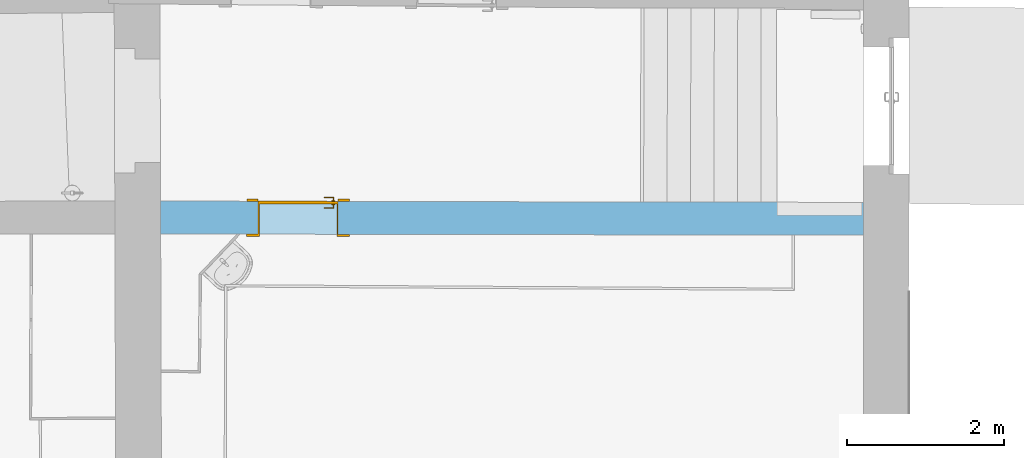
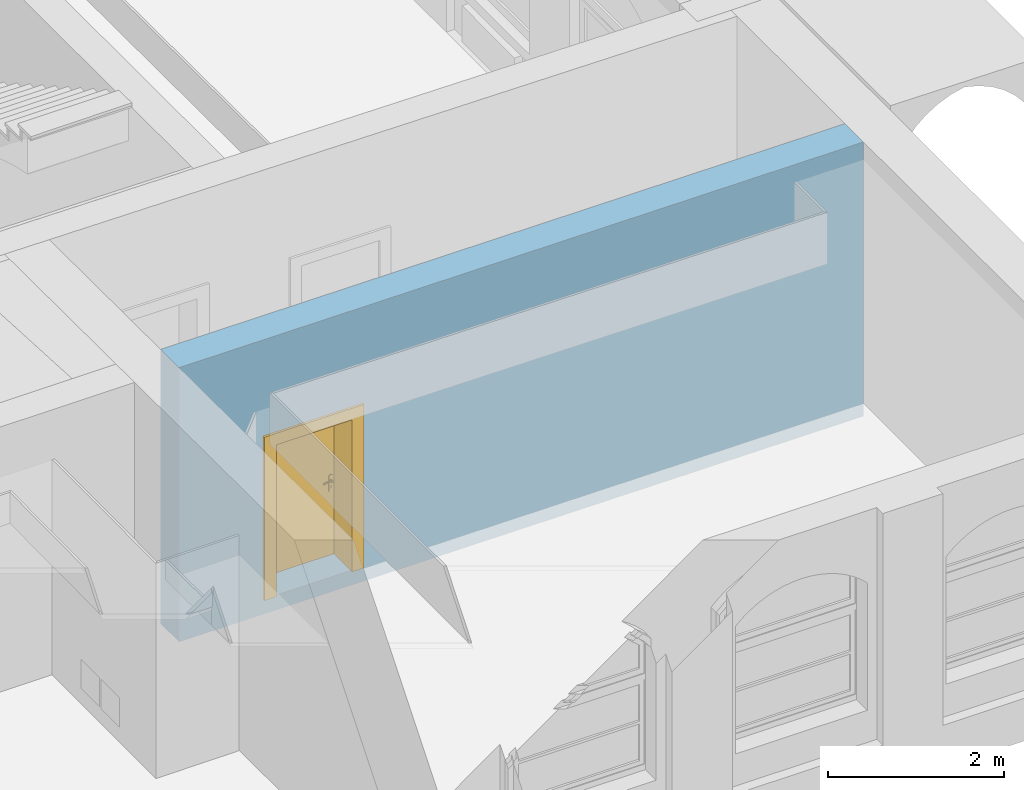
# One storey, part 81 of 158: 1 door, 1 opening, plus 1 element that does not belong to this part.
"""IFC2X3 building model written with IfcOpenShell, lengths in metres."""

from ifc_helpers import new_model, entity, si_unit, converted_unit, derived_unit, money_unit, direction, frame, origin_with_axes, origin_2d_with_axis, place, context, subcontext, project, spatial, polyline, rectangle, outline, extrude, open_shell, faceted_brep, surface_model, material, layer, layer_set, layer_usage, type_object, element, fill, save


model = new_model("IFC2X3")

# Units and contexts
model_context = context("Model", 3, precision=1e-05, world=origin_with_axes(), true_north=direction((0.0, 1.0)))
body_context = subcontext(model_context, "Body", "Model", "MODEL_VIEW")
ifc_project = project(units=[si_unit("LENGTHUNIT", "METRE"), si_unit("AREAUNIT", "SQUARE_METRE"), si_unit("VOLUMEUNIT", "CUBIC_METRE"), converted_unit("PLANEANGLEUNIT", "DEGREE", entity("IfcPlaneAngleMeasure", 0.0174532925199), si_unit("PLANEANGLEUNIT", "RADIAN"), dimensions=[0, 0, 0, 0, 0, 0, 0]), money_unit("EUR"), converted_unit("TIMEUNIT", "Year", entity("IfcTimeMeasure", 31556926.0), si_unit("TIMEUNIT", "SECOND"), dimensions=[0, 0, 1, 0, 0, 0, 0]), si_unit("MASSUNIT", "GRAM", prefix="KILO"), si_unit("THERMODYNAMICTEMPERATUREUNIT", "DEGREE_CELSIUS"), si_unit("LUMINOUSINTENSITYUNIT", "LUMEN"), si_unit("ENERGYUNIT", "JOULE", prefix="MEGA"), derived_unit("THERMALCONDUCTANCEUNIT", [(si_unit("POWERUNIT", "WATT"), 1), (si_unit("LENGTHUNIT", "METRE"), -1), (si_unit("THERMODYNAMICTEMPERATUREUNIT", "KELVIN"), -1)]), derived_unit("SPECIFICHEATCAPACITYUNIT", [(si_unit("ENERGYUNIT", "JOULE"), 1), (si_unit("MASSUNIT", "GRAM", prefix="KILO"), -1), (si_unit("THERMODYNAMICTEMPERATUREUNIT", "KELVIN"), -1)]), derived_unit("MASSDENSITYUNIT", [(si_unit("MASSUNIT", "GRAM", prefix="KILO"), 1), (si_unit("VOLUMEUNIT", "CUBIC_METRE"), -1)])], contexts=[model_context])

# Site, building, storey
site_placement = place(None, origin_with_axes())
site = spatial("IfcSite", under=ifc_project, at=site_placement, Name="Gelände", CompositionType="ELEMENT")
building_placement = place(site_placement, origin_with_axes())
building = spatial("IfcBuilding", under=site, at=building_placement, Name="Gebäude", CompositionType="ELEMENT")
storey_placement = place(building_placement, origin_with_axes())
storey = spatial("IfcBuildingStorey", under=building, at=storey_placement, Name="ERDGESCHOSS", CompositionType="ELEMENT", Elevation=0.0)

# Wall, opening, door
ifc_material = material(Name="05_ALLGEMEIN - TRAGENDE BAUTEILE")
ifc_layer = layer(ifc_material, 0.42, ventilated="UNKNOWN")
ifc_layer_set = layer_set([ifc_layer], Name="05_ALLGEMEIN - TRAGENDE BAUTEILE 0.42")
ifc_layer_usage = layer_usage(ifc_layer_set, "AXIS2", "NEGATIVE", 0.42)
wall_type = type_object("IfcWallType", Name="05_ALLGEMEIN - TRAGENDE BAUTEILE 420", PredefinedType="ELEMENTEDWALL")
wall_placement = place(storey_placement, frame((32.1184601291, 16.8023667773, -0.21), z_axis=(0.0, 0.0, 1.0), x_axis=(-0.999998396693, 0.00179070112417, 0.0)))
wall = element("IfcWallStandardCase", 1, at=wall_placement, inside=storey, type_object=wall_type, material=ifc_layer_usage, Name="Wand-036", ObjectType="ELEMENTEDWALL", context=body_context, shape_type="SweptSolid", body=[
    extrude(outline(polyline([(0.580000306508, 0.0), (9.56213301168, 0.0), (9.56005871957, 0.42), (0.57956851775, 0.42), (0.580000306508, 0.0)])), origin_with_axes(), (0.0, 0.0, 1.0), 3.81),
])
opening_placement = place(wall_placement, frame((7.80414924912, 0.0, 0.205703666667), z_axis=(0.0, 0.0, 1.0), x_axis=(1.0, 0.0, 0.0)))
opening = element("IfcOpeningElement", 2, at=opening_placement, cuts=wall, Name="Tür-022", context=body_context, shape_type="SweptSolid", body=[
    extrude(rectangle(XDim=1.0219033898, YDim=2.127002, at=origin_2d_with_axis()), frame((0.0, -0.42, 1.063501), z_axis=(0.0, -1.0, 0.0), x_axis=(1.0, 0.0, 0.0)), (0.0, 0.0, -1.0), 1.26),
])
door_style = type_object("IfcDoorStyle", Name="Blockrahmentür 1-Fl 25", ConstructionType="NOTDEFINED", OperationType="SINGLE_SWING_LEFT", ParameterTakesPrecedence=False, Sizeable=False)
door_placement = place(opening_placement, frame((0.495951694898, 0.0, 0.0), z_axis=(0.0, 0.0, 1.0), x_axis=(-1.0, 0.0, 0.0)))
door = element("IfcDoor", 3, at=door_placement, inside=storey, type_object=door_style, Name="Tür-022", ObjectType="NOTDEFINED", OverallHeight=2.127, OverallWidth=1.0219, context=body_context, shape_type="SurfaceModel", body=[
    faceted_brep([(-0.015, -0.45, 0.0), (-0.015, -0.45, 2.127002), (-0.015, -0.035, 2.127002), (-0.015, -0.035, 0.0), (0.0, -0.45, 0.0), (0.0, -0.45, 2.112002), (0.380851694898, -0.45, 2.112002), (0.495851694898, -0.45, 2.112002), (0.991903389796, -0.45, 2.112002), (0.991903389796, -0.45, 0.0), (1.0069033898, -0.45, 0.0), (1.0069033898, -0.45, 2.127002), (1.0069033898, -0.035, 2.127002), (1.0069033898, -0.035, 0.0), (0.991903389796, -0.035, 0.0), (0.991903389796, -0.035, 2.112002), (0.495851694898, -0.035, 2.112002), (0.380851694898, -0.035, 2.112002), (0.0, -0.035, 2.112002), (0.0, -0.035, 0.0)], [[[0, 1, 2, 3]], [[0, 4, 5, 6, 7, 8, 9, 10, 11, 1]], [[1, 11, 12, 2]], [[3, 2, 12, 13, 14, 15, 16, 17, 18, 19]], [[4, 0, 3, 19]], [[5, 4, 19, 18]], [[6, 5, 18, 17]], [[7, 6, 17, 16]], [[8, 7, 16, 15]], [[9, 8, 15, 14]], [[10, 9, 14, 13]], [[11, 10, 13, 12]]]),
    surface_model("IfcShellBasedSurfaceModel", [(-0.015, -0.035, 0.0), (-0.015, -0.035, 2.127002), (-0.015, 0.03, 2.127002), (-0.015, 0.03, 0.0), (0.395851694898, -0.035, 2.127002), (0.480851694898, -0.035, 2.127002), (1.0069033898, -0.035, 2.127002), (1.0069033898, -0.035, 2.127002), (1.0069033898, 0.03, 2.127002), (0.480851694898, 0.03, 2.127002), (0.395851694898, 0.03, 2.127002), (-0.015, 0.03, 2.127002), (-0.015, -0.035, 2.127002), (1.0069033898, 0.03, 2.127002), (1.0069033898, -0.035, 0.0), (1.0069033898, 0.03, 0.0)], [open_shell([[[0, 1, 2, 3]], [[4, 5, 6, 1]], [[1, 7, 8, 2]], [[8, 9, 10, 11]], [[12, 0, 3, 11]], [[4, 12, 11, 10]], [[5, 4, 10, 9]], [[6, 5, 9, 13]], [[14, 6, 13, 15]], [[7, 14, 15, 8]]])]),
    faceted_brep([(-0.16, -0.45, 0.0), (-0.16, -0.45, 2.272002), (-0.16, -0.42, 2.272002), (-0.16, -0.42, 0.0), (-0.015, -0.45, 0.0), (-0.015, -0.45, 2.127002), (1.0069033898, -0.45, 2.127002), (1.0069033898, -0.45, 0.0), (1.1519033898, -0.45, 0.0), (1.1519033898, -0.45, 2.272002), (1.1519033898, -0.42, 2.272002), (1.1519033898, -0.42, 0.0), (1.0069033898, -0.42, 0.0), (1.0069033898, -0.42, 2.127002), (-0.015, -0.42, 2.127002), (-0.015, -0.42, 0.0)], [[[0, 1, 2, 3]], [[0, 4, 5, 6, 7, 8, 9, 1]], [[1, 9, 10, 2]], [[3, 2, 10, 11, 12, 13, 14, 15]], [[4, 0, 3, 15]], [[5, 4, 15, 14]], [[6, 5, 14, 13]], [[7, 6, 13, 12]], [[8, 7, 12, 11]], [[9, 8, 11, 10]]]),
    faceted_brep([(-0.16, 0.0, 0.0), (-0.16, 0.0, 2.272002), (-0.16, 0.03, 2.272002), (-0.16, 0.03, 0.0), (-0.015, 0.0, 0.0), (-0.015, 0.0, 2.127002), (1.0069033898, 0.0, 2.127002), (1.0069033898, 0.0, 0.0), (1.1519033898, 0.0, 0.0), (1.1519033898, 0.0, 2.272002), (1.1519033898, 0.03, 2.272002), (1.1519033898, 0.03, 0.0), (1.0069033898, 0.03, 0.0), (1.0069033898, 0.03, 2.127002), (-0.015, 0.03, 2.127002), (-0.015, 0.03, 0.0)], [[[0, 1, 2, 3]], [[0, 4, 5, 6, 7, 8, 9, 1]], [[1, 9, 10, 2]], [[3, 2, 10, 11, 12, 13, 14, 15]], [[4, 0, 3, 15]], [[5, 4, 15, 14]], [[6, 5, 14, 13]], [[7, 6, 13, 12]], [[8, 7, 12, 11]], [[9, 8, 11, 10]]]),
    faceted_brep([(-0.015, 0.002, 0.0), (-0.015, 0.002, 2.127002), (1.0069033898, 0.002, 2.127002), (1.0069033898, 0.002, 0.0), (-0.015, -0.035, 0.0), (-0.015, -0.035, 2.127002), (1.0069033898, -0.035, 2.127002), (1.0069033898, -0.035, 0.0)], [[[0, 1, 2, 3]], [[0, 4, 5, 1]], [[1, 5, 6, 2]], [[2, 6, 7, 3]], [[3, 7, 4, 0]], [[7, 6, 5, 4]]]),
    faceted_brep([(0.951605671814, -0.075, 1.05647213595), (0.951605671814, -0.055, 1.05647213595), (0.946903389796, -0.055, 1.058), (0.946903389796, -0.075, 1.058), (0.954511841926, -0.075, 1.05247213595), (0.954511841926, -0.055, 1.05247213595), (0.952781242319, -0.053, 1.05809016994), (0.946903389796, -0.053, 1.06), (0.942201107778, -0.055, 1.05647213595), (0.942201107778, -0.075, 1.05647213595), (0.939294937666, -0.075, 1.05247213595), (0.939294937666, -0.075, 1.04752786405), (0.942201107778, -0.075, 1.04352786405), (0.946903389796, -0.075, 1.042), (0.951605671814, -0.075, 1.04352786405), (0.954511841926, -0.075, 1.04752786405), (0.954511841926, -0.055, 1.04752786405), (0.956413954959, -0.053, 1.05309016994), (0.952781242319, -0.045, 1.05809016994), (0.946903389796, -0.045, 1.06), (0.941025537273, -0.053, 1.05809016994), (0.939294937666, -0.055, 1.05247213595), (0.939294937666, -0.055, 1.04752786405), (0.942201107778, -0.055, 1.04352786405), (0.946903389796, -0.055, 1.042), (0.951605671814, -0.055, 1.04352786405), (0.956413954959, -0.053, 1.04690983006), (0.956413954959, -0.045, 1.05309016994), (0.956413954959, -0.045, 1.04690983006), (0.952781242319, -0.045, 1.04190983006), (0.946903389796, -0.045, 1.04), (0.941025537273, -0.045, 1.04190983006), (0.937392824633, -0.045, 1.04690983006), (0.937392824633, -0.045, 1.05309016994), (0.941025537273, -0.045, 1.05809016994), (0.937392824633, -0.053, 1.05309016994), (0.937392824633, -0.053, 1.04690983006), (0.941025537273, -0.053, 1.04190983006), (0.946903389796, -0.053, 1.04), (0.952781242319, -0.053, 1.04190983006)], [[[0, 1, 2, 3]], [[4, 5, 1, 0]], [[1, 6, 7, 2]], [[3, 2, 8, 9]], [[3, 9, 10, 11, 12, 13, 14, 15, 4, 0]], [[15, 16, 5, 4]], [[5, 17, 6, 1]], [[6, 18, 19, 7]], [[2, 7, 20, 8]], [[9, 8, 21, 10]], [[10, 21, 22, 11]], [[11, 22, 23, 12]], [[12, 23, 24, 13]], [[13, 24, 25, 14]], [[14, 25, 16, 15]], [[16, 26, 17, 5]], [[17, 27, 18, 6]], [[19, 18, 27, 28, 29, 30, 31, 32, 33, 34]], [[7, 19, 34, 20]], [[8, 20, 35, 21]], [[21, 35, 36, 22]], [[22, 36, 37, 23]], [[23, 37, 38, 24]], [[24, 38, 39, 25]], [[25, 39, 26, 16]], [[26, 28, 27, 17]], [[39, 29, 28, 26]], [[38, 30, 29, 39]], [[37, 31, 30, 38]], [[36, 32, 31, 37]], [[35, 33, 32, 36]], [[20, 34, 33, 35]]]),
    faceted_brep([(0.934715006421, -0.045, 1.11759695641), (0.930103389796, -0.045, 1.11), (0.924403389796, -0.045, 1.11), (0.924403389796, -0.045, 0.89), (0.930103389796, -0.045, 0.89), (0.934715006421, -0.045, 0.882403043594), (0.942459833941, -0.045, 0.878044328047), (0.951346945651, -0.045, 0.878044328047), (0.959091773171, -0.045, 0.882403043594), (0.963703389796, -0.045, 0.89), (0.969403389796, -0.045, 0.89), (0.969403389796, -0.045, 1.11), (0.963703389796, -0.045, 1.11), (0.959091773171, -0.045, 1.11759695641), (0.951346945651, -0.045, 1.12195567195), (0.942459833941, -0.045, 1.12195567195), (0.946903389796, -0.045, 0.967425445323), (0.952278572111, -0.045, 0.965143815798), (0.954371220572, -0.045, 0.959692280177), (0.951903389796, -0.045, 0.9544), (0.951903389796, -0.045, 0.9375), (0.950438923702, -0.045, 0.933964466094), (0.946903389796, -0.045, 0.9325), (0.94336785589, -0.045, 0.933964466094), (0.941903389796, -0.045, 0.9375), (0.941903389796, -0.045, 0.9544), (0.93943555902, -0.045, 0.959692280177), (0.941528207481, -0.045, 0.965143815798), (0.934715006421, -0.035, 1.11759695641), (0.930103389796, -0.035, 1.11), (0.924403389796, -0.035, 1.11), (0.924403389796, -0.035, 0.89), (0.930103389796, -0.035, 0.89), (0.934715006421, -0.035, 0.882403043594), (0.942459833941, -0.035, 0.878044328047), (0.951346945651, -0.035, 0.878044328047), (0.959091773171, -0.035, 0.882403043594), (0.963703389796, -0.035, 0.89), (0.969403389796, -0.035, 0.89), (0.969403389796, -0.035, 1.11), (0.963703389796, -0.035, 1.11), (0.959091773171, -0.035, 1.11759695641), (0.951346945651, -0.035, 1.12195567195), (0.942459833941, -0.035, 1.12195567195), (0.946903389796, -0.035, 0.967425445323), (0.952278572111, -0.035, 0.965143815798), (0.954371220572, -0.035, 0.959692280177), (0.951903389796, -0.035, 0.9544), (0.951903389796, -0.035, 0.9375), (0.950438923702, -0.035, 0.933964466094), (0.946903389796, -0.035, 0.9325), (0.94336785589, -0.035, 0.933964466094), (0.941903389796, -0.035, 0.9375), (0.941903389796, -0.035, 0.9544), (0.93943555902, -0.035, 0.959692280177), (0.941528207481, -0.035, 0.965143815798)], [[[0, 1, 2, 3, 4, 5, 6, 7, 8, 9, 10, 11, 12, 13, 14, 15], [16, 17, 18, 19, 20, 21, 22, 23, 24, 25, 26, 27]], [[0, 28, 29, 1]], [[1, 29, 30, 2]], [[2, 30, 31, 3]], [[3, 31, 32, 4]], [[4, 32, 33, 5]], [[5, 33, 34, 6]], [[6, 34, 35, 7]], [[7, 35, 36, 8]], [[8, 36, 37, 9]], [[9, 37, 38, 10]], [[10, 38, 39, 11]], [[11, 39, 40, 12]], [[12, 40, 41, 13]], [[13, 41, 42, 14]], [[14, 42, 43, 15]], [[15, 43, 28, 0]], [[16, 44, 45, 17]], [[17, 45, 46, 18]], [[18, 46, 47, 19]], [[47, 48, 20, 19]], [[21, 20, 48, 49]], [[22, 21, 49, 50]], [[23, 22, 50, 51]], [[24, 23, 51, 52]], [[25, 24, 52, 53]], [[25, 53, 54, 26]], [[26, 54, 55, 27]], [[27, 55, 44, 16]], [[32, 31, 30, 29, 28, 43, 42, 41, 40, 39, 38, 37, 36, 35, 34, 33], [46, 45, 44, 55, 54, 53, 52, 51, 50, 49, 48, 47]]]),
    faceted_brep([(0.832650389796, -0.075, 1.057158), (0.832648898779, -0.075, 1.05719388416), (0.832648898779, -0.09, 1.05719388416), (0.832650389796, -0.09, 1.057158), (0.859678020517, -0.075, 1.06432652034), (0.887506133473, -0.075, 1.06706086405), (0.915412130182, -0.075, 1.06529002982), (0.942671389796, -0.075, 1.05906), (0.949073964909, -0.075, 1.05976125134), (0.954576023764, -0.075, 1.05641280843), (0.956894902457, -0.075, 1.05040385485), (0.955068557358, -0.075, 1.04422735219), (0.949854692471, -0.075, 1.04044577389), (0.94341640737, -0.075, 1.04062800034), (0.93842478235, -0.075, 1.04469843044), (0.938445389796, -0.075, 1.044666), (0.91315667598, -0.075, 1.05019878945), (0.887314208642, -0.075, 1.05171460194), (0.861552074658, -0.075, 1.04917624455), (0.836502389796, -0.075, 1.042646), (0.830959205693, -0.075, 1.04356849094), (0.827597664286, -0.075, 1.04807159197), (0.828289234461, -0.075, 1.05364829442), (0.828289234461, -0.09, 1.05364829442), (0.827597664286, -0.09, 1.04807159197), (0.830959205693, -0.09, 1.04356849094), (0.836502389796, -0.09, 1.042646), (0.861552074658, -0.09, 1.04917624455), (0.887314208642, -0.09, 1.05171460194), (0.91315667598, -0.09, 1.05019878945), (0.938445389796, -0.09, 1.044666), (0.93842478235, -0.09, 1.04469843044), (0.94341640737, -0.09, 1.04062800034), (0.949854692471, -0.09, 1.04044577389), (0.955068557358, -0.09, 1.04422735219), (0.956894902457, -0.09, 1.05040385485), (0.954576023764, -0.09, 1.05641280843), (0.949073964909, -0.09, 1.05976125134), (0.942671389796, -0.09, 1.05906), (0.915412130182, -0.09, 1.06529002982), (0.887506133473, -0.09, 1.06706086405), (0.859678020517, -0.09, 1.06432652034)], [[[0, 1, 2, 3]], [[0, 4, 5, 6, 7, 8, 9, 10, 11, 12, 13, 14, 15, 16, 17, 18, 19, 20, 21, 22, 1]], [[1, 22, 23, 2]], [[3, 2, 23, 24, 25, 26, 27, 28, 29, 30, 31, 32, 33, 34, 35, 36, 37, 38, 39, 40, 41]], [[4, 0, 3, 41]], [[5, 4, 41, 40]], [[6, 5, 40, 39]], [[7, 6, 39, 38]], [[8, 7, 38, 37]], [[9, 8, 37, 36]], [[10, 9, 36, 35]], [[11, 10, 35, 34]], [[12, 11, 34, 33]], [[13, 12, 33, 32]], [[14, 13, 32, 31]], [[15, 14, 31, 30]], [[16, 15, 30, 29]], [[17, 16, 29, 28]], [[18, 17, 28, 27]], [[19, 18, 27, 26]], [[20, 19, 26, 25]], [[21, 20, 25, 24]], [[22, 21, 24, 23]]]),
    faceted_brep([(0.951605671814, 0.042, 1.05647213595), (0.946903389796, 0.042, 1.058), (0.946903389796, 0.022, 1.058), (0.951605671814, 0.022, 1.05647213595), (0.954511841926, 0.042, 1.05247213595), (0.954511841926, 0.042, 1.04752786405), (0.951605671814, 0.042, 1.04352786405), (0.946903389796, 0.042, 1.042), (0.942201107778, 0.042, 1.04352786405), (0.939294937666, 0.042, 1.04752786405), (0.939294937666, 0.042, 1.05247213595), (0.942201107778, 0.042, 1.05647213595), (0.942201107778, 0.022, 1.05647213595), (0.946903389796, 0.02, 1.06), (0.952781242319, 0.02, 1.05809016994), (0.954511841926, 0.022, 1.05247213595), (0.954511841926, 0.022, 1.04752786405), (0.951605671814, 0.022, 1.04352786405), (0.946903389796, 0.022, 1.042), (0.942201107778, 0.022, 1.04352786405), (0.939294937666, 0.022, 1.04752786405), (0.939294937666, 0.022, 1.05247213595), (0.941025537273, 0.02, 1.05809016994), (0.946903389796, 0.012, 1.06), (0.952781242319, 0.012, 1.05809016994), (0.956413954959, 0.02, 1.05309016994), (0.956413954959, 0.02, 1.04690983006), (0.952781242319, 0.02, 1.04190983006), (0.946903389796, 0.02, 1.04), (0.941025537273, 0.02, 1.04190983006), (0.937392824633, 0.02, 1.04690983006), (0.937392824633, 0.02, 1.05309016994), (0.941025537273, 0.012, 1.05809016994), (0.937392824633, 0.012, 1.05309016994), (0.937392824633, 0.012, 1.04690983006), (0.941025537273, 0.012, 1.04190983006), (0.946903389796, 0.012, 1.04), (0.952781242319, 0.012, 1.04190983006), (0.956413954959, 0.012, 1.04690983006), (0.956413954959, 0.012, 1.05309016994)], [[[0, 1, 2, 3]], [[1, 0, 4, 5, 6, 7, 8, 9, 10, 11]], [[1, 11, 12, 2]], [[3, 2, 13, 14]], [[4, 0, 3, 15]], [[5, 4, 15, 16]], [[6, 5, 16, 17]], [[7, 6, 17, 18]], [[8, 7, 18, 19]], [[9, 8, 19, 20]], [[10, 9, 20, 21]], [[11, 10, 21, 12]], [[2, 12, 22, 13]], [[14, 13, 23, 24]], [[15, 3, 14, 25]], [[16, 15, 25, 26]], [[17, 16, 26, 27]], [[18, 17, 27, 28]], [[19, 18, 28, 29]], [[20, 19, 29, 30]], [[21, 20, 30, 31]], [[12, 21, 31, 22]], [[13, 22, 32, 23]], [[23, 32, 33, 34, 35, 36, 37, 38, 39, 24]], [[25, 14, 24, 39]], [[26, 25, 39, 38]], [[27, 26, 38, 37]], [[28, 27, 37, 36]], [[29, 28, 36, 35]], [[30, 29, 35, 34]], [[31, 30, 34, 33]], [[22, 31, 33, 32]]]),
    faceted_brep([(0.934715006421, 0.002, 1.11759695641), (0.930103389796, 0.002, 1.11), (0.924403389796, 0.002, 1.11), (0.924403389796, 0.002, 0.89), (0.930103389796, 0.002, 0.89), (0.934715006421, 0.002, 0.882403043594), (0.942459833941, 0.002, 0.878044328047), (0.951346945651, 0.002, 0.878044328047), (0.959091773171, 0.002, 0.882403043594), (0.963703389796, 0.002, 0.89), (0.969403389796, 0.002, 0.89), (0.969403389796, 0.002, 1.11), (0.963703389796, 0.002, 1.11), (0.959091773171, 0.002, 1.11759695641), (0.951346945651, 0.002, 1.12195567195), (0.942459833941, 0.002, 1.12195567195), (0.946903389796, 0.002, 0.967425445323), (0.952278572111, 0.002, 0.965143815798), (0.954371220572, 0.002, 0.959692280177), (0.951903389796, 0.002, 0.9544), (0.951903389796, 0.002, 0.9375), (0.950438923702, 0.002, 0.933964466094), (0.946903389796, 0.002, 0.9325), (0.94336785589, 0.002, 0.933964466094), (0.941903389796, 0.002, 0.9375), (0.941903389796, 0.002, 0.9544), (0.93943555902, 0.002, 0.959692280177), (0.941528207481, 0.002, 0.965143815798), (0.934715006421, 0.012, 1.11759695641), (0.930103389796, 0.012, 1.11), (0.924403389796, 0.012, 1.11), (0.924403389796, 0.012, 0.89), (0.930103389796, 0.012, 0.89), (0.934715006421, 0.012, 0.882403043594), (0.942459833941, 0.012, 0.878044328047), (0.951346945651, 0.012, 0.878044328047), (0.959091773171, 0.012, 0.882403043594), (0.963703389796, 0.012, 0.89), (0.969403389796, 0.012, 0.89), (0.969403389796, 0.012, 1.11), (0.963703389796, 0.012, 1.11), (0.959091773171, 0.012, 1.11759695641), (0.951346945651, 0.012, 1.12195567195), (0.942459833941, 0.012, 1.12195567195), (0.946903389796, 0.012, 0.967425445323), (0.952278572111, 0.012, 0.965143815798), (0.954371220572, 0.012, 0.959692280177), (0.951903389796, 0.012, 0.9544), (0.951903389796, 0.012, 0.9375), (0.950438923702, 0.012, 0.933964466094), (0.946903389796, 0.012, 0.9325), (0.94336785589, 0.012, 0.933964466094), (0.941903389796, 0.012, 0.9375), (0.941903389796, 0.012, 0.9544), (0.93943555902, 0.012, 0.959692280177), (0.941528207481, 0.012, 0.965143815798)], [[[0, 1, 2, 3, 4, 5, 6, 7, 8, 9, 10, 11, 12, 13, 14, 15], [16, 17, 18, 19, 20, 21, 22, 23, 24, 25, 26, 27]], [[28, 29, 1, 0]], [[29, 30, 2, 1]], [[30, 31, 3, 2]], [[31, 32, 4, 3]], [[32, 33, 5, 4]], [[33, 34, 6, 5]], [[34, 35, 7, 6]], [[35, 36, 8, 7]], [[36, 37, 9, 8]], [[37, 38, 10, 9]], [[38, 39, 11, 10]], [[39, 40, 12, 11]], [[40, 41, 13, 12]], [[41, 42, 14, 13]], [[42, 43, 15, 14]], [[43, 28, 0, 15]], [[16, 44, 45, 17]], [[17, 45, 46, 18]], [[18, 46, 47, 19]], [[47, 48, 20, 19]], [[21, 20, 48, 49]], [[22, 21, 49, 50]], [[23, 22, 50, 51]], [[24, 23, 51, 52]], [[25, 24, 52, 53]], [[25, 53, 54, 26]], [[26, 54, 55, 27]], [[27, 55, 44, 16]], [[32, 31, 30, 29, 28, 43, 42, 41, 40, 39, 38, 37, 36, 35, 34, 33], [46, 45, 44, 55, 54, 53, 52, 51, 50, 49, 48, 47]]]),
    faceted_brep([(0.832650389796, 0.042, 1.057158), (0.832650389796, 0.057, 1.057158), (0.832648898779, 0.057, 1.05719388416), (0.832648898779, 0.042, 1.05719388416), (0.859678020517, 0.042, 1.06432652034), (0.859678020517, 0.057, 1.06432652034), (0.887506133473, 0.057, 1.06706086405), (0.915412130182, 0.057, 1.06529002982), (0.942671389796, 0.057, 1.05906), (0.949073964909, 0.057, 1.05976125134), (0.954576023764, 0.057, 1.05641280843), (0.956894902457, 0.057, 1.05040385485), (0.955068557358, 0.057, 1.04422735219), (0.949854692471, 0.057, 1.04044577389), (0.94341640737, 0.057, 1.04062800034), (0.93842478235, 0.057, 1.04469843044), (0.938445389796, 0.057, 1.044666), (0.91315667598, 0.057, 1.05019878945), (0.887314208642, 0.057, 1.05171460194), (0.861552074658, 0.057, 1.04917624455), (0.836502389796, 0.057, 1.042646), (0.830959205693, 0.057, 1.04356849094), (0.827597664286, 0.057, 1.04807159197), (0.828289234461, 0.057, 1.05364829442), (0.828289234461, 0.042, 1.05364829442), (0.827597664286, 0.042, 1.04807159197), (0.830959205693, 0.042, 1.04356849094), (0.836502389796, 0.042, 1.042646), (0.861552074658, 0.042, 1.04917624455), (0.887314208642, 0.042, 1.05171460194), (0.91315667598, 0.042, 1.05019878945), (0.938445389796, 0.042, 1.044666), (0.93842478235, 0.042, 1.04469843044), (0.94341640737, 0.042, 1.04062800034), (0.949854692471, 0.042, 1.04044577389), (0.955068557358, 0.042, 1.04422735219), (0.956894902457, 0.042, 1.05040385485), (0.954576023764, 0.042, 1.05641280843), (0.949073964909, 0.042, 1.05976125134), (0.942671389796, 0.042, 1.05906), (0.915412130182, 0.042, 1.06529002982), (0.887506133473, 0.042, 1.06706086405)], [[[0, 1, 2, 3]], [[4, 5, 1, 0]], [[1, 5, 6, 7, 8, 9, 10, 11, 12, 13, 14, 15, 16, 17, 18, 19, 20, 21, 22, 23, 2]], [[3, 2, 23, 24]], [[0, 3, 24, 25, 26, 27, 28, 29, 30, 31, 32, 33, 34, 35, 36, 37, 38, 39, 40, 41, 4]], [[41, 6, 5, 4]], [[40, 7, 6, 41]], [[39, 8, 7, 40]], [[38, 9, 8, 39]], [[37, 10, 9, 38]], [[36, 11, 10, 37]], [[35, 12, 11, 36]], [[34, 13, 12, 35]], [[33, 14, 13, 34]], [[32, 15, 14, 33]], [[31, 16, 15, 32]], [[30, 17, 16, 31]], [[29, 18, 17, 30]], [[28, 19, 18, 29]], [[27, 20, 19, 28]], [[26, 21, 20, 27]], [[25, 22, 21, 26]], [[24, 23, 22, 25]]]),
])
fill(opening, door)

save(model, "model.ifc")
